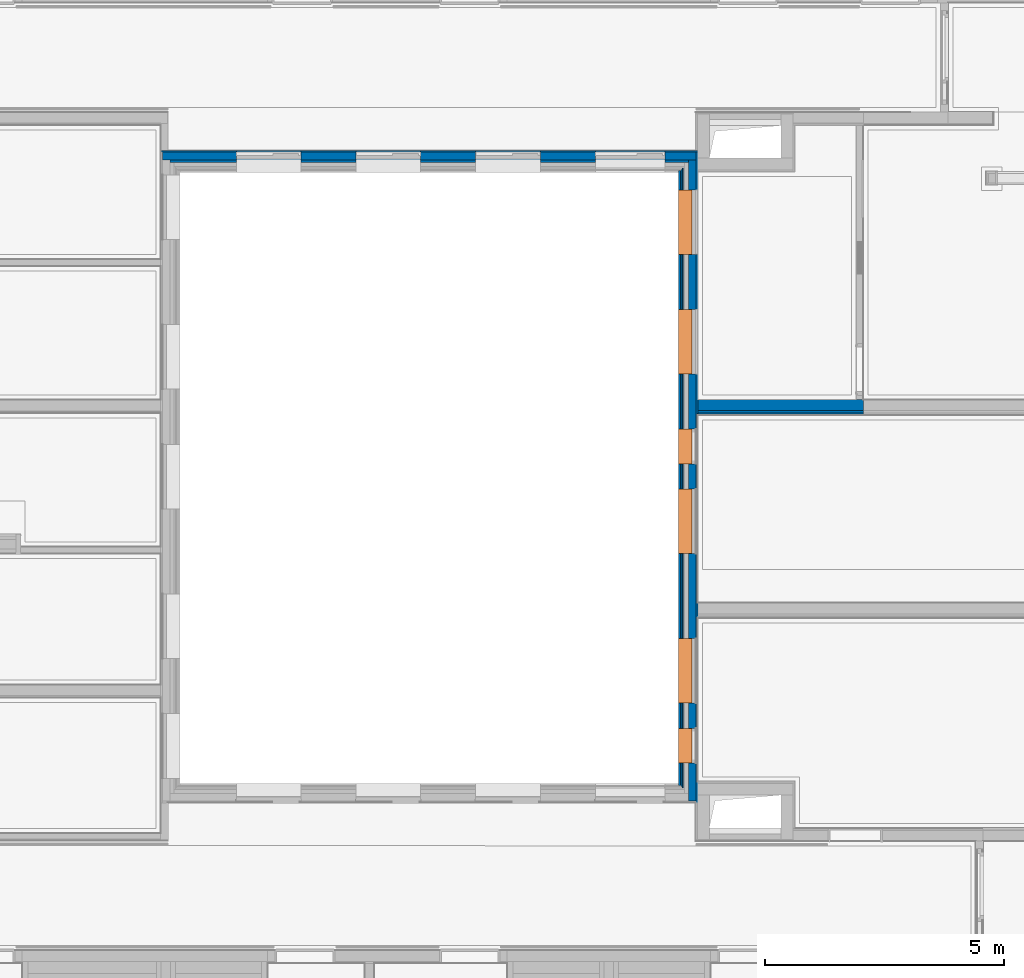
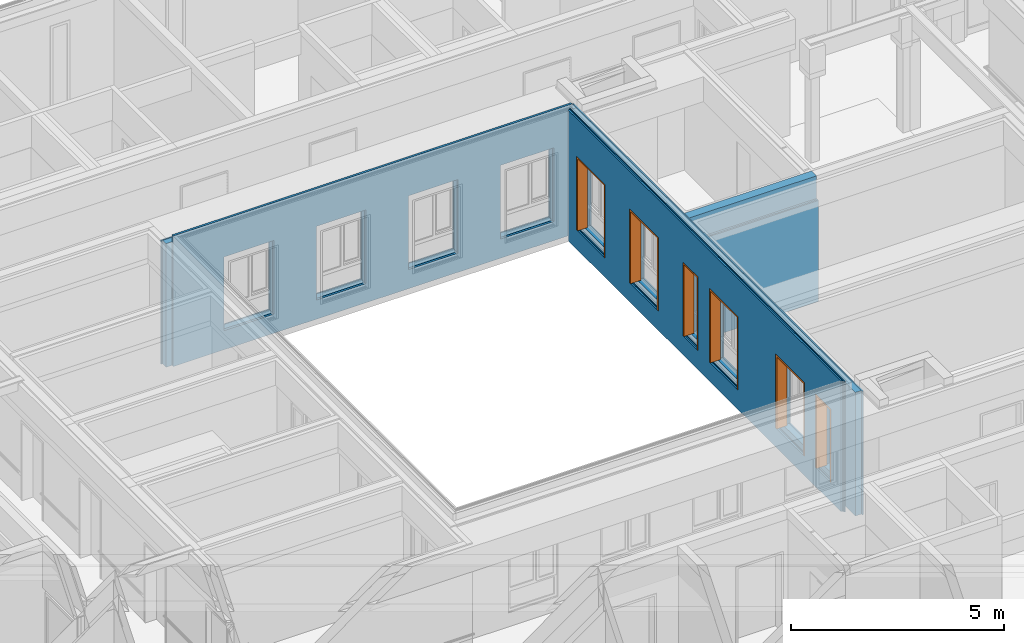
# One storey, part 17 of 222: 11 walls, 6 proxies, 42 openings.
"""IFC4 building model written with IfcOpenShell, lengths in metres."""

from ifc_helpers import new_model, entity, si_unit, converted_unit, derived_unit, frame, frame_2d, origin, origin_with_axes, place, context, subcontext, project, spatial, polyline, rectangle, outline, extrude, faceted_brep, material, element, fill, save


model = new_model("IFC4")

# Units and contexts
model_context = context("Model", 3, precision=1e-05, world=origin())
body_context = subcontext(model_context, "Body", "Model", "MODEL_VIEW")
ifc_project = project(units=[si_unit("LENGTHUNIT", "METRE"), si_unit("AREAUNIT", "SQUARE_METRE"), si_unit("VOLUMEUNIT", "CUBIC_METRE"), si_unit("MASSUNIT", "GRAM", prefix="KILO"), converted_unit("PLANEANGLEUNIT", "DEGREE", entity("IfcPlaneAngleMeasure", 0.0174532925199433), si_unit("PLANEANGLEUNIT", "RADIAN"), dimensions=[0, 0, 0, 0, 0, 0, 0]), derived_unit("THERMALTRANSMITTANCEUNIT", [(si_unit("POWERUNIT", "WATT"), 1), (si_unit("THERMODYNAMICTEMPERATUREUNIT", "KELVIN"), -1), (si_unit("LENGTHUNIT", "METRE"), -2)]), derived_unit("VOLUMETRICFLOWRATEUNIT", [(si_unit("LENGTHUNIT", "METRE"), 3), (converted_unit("TIMEUNIT", "hour", entity("IfcTimeMeasure", 3600.0), si_unit("TIMEUNIT", "SECOND"), dimensions=[0, 0, 1, 0, 0, 0, 0]), -1), (si_unit("LENGTHUNIT", "METRE"), -1)])], contexts=[model_context])

# Site, building, storey
site_placement = place(None, origin())
site = spatial("IfcSite", under=ifc_project, at=site_placement, Name="Psychiatrie Neubau Wunstorf", CompositionType="ELEMENT")
building_placement = place(site_placement, origin())
building = spatial("IfcBuilding", under=site, at=building_placement, Name="Neubau H2 Stationsgebäude", CompositionType="ELEMENT")
storey_placement = place(building_placement, frame((0.0, 0.0, 3.6)))
storey = spatial("IfcBuildingStorey", under=building, at=storey_placement, Name="H2 Ebene +1", CompositionType="ELEMENT", Elevation=3.6)

# Wall, openings
ifc_material_1 = material(Name="WA-LB")
wall_1_placement = place(storey_placement, frame((26.861, 7.414, 0.0), z_axis=(0.0, 0.0, 1.0), x_axis=(5.35483038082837e-16, 1.0, 0.0)))
wall_1 = element("IfcWall", 1, at=wall_1_placement, inside=storey, material=ifc_material_1, context=body_context, shape_type="SweptSolid", body=[
    extrude(rectangle(XDim=13.5876528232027, YDim=0.036, at=frame_2d((6.79382641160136, 0.018), x_axis=(1.0, 0.0))), origin_with_axes(), (0.0, 0.0, 1.0), 3.55),
])
opening_1_placement = place(wall_1_placement, frame((12.801, 0.0359999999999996, 0.55), z_axis=(0.0, -1.0, 0.0), x_axis=(0.0, 0.0, 1.0)))
element("IfcOpeningElement", 2, at=opening_1_placement, cuts=wall_1, Name="Fensteröffnung", ObjectType="Opening", context=body_context, shape_type="SweptSolid", body=[
    extrude(outline(polyline([(2.115, 1.35), (2.115, 0.0), (0.0, 0.0), (0.0, 1.35), (2.115, 1.35)])), origin_with_axes(), (0.0, 0.0, 1.0), 0.036),
])
opening_2_placement = place(wall_1_placement, frame((10.3014401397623, 0.0359999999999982, 0.55), z_axis=(0.0, -1.0, 0.0), x_axis=(0.0, 0.0, 1.0)))
element("IfcOpeningElement", 3, at=opening_2_placement, cuts=wall_1, Name="Fensteröffnung", ObjectType="Opening", context=body_context, shape_type="SweptSolid", body=[
    extrude(outline(polyline([(2.115, 1.35), (2.115, 0.0), (0.0, 0.0), (0.0, 1.35), (2.115, 1.35)])), origin_with_axes(), (0.0, 0.0, 1.0), 0.036),
])
opening_3_placement = place(wall_1_placement, frame((7.80105754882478, 0.0360000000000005, 0.55), z_axis=(0.0, -1.0, 0.0), x_axis=(0.0, 0.0, 1.0)))
element("IfcOpeningElement", 4, at=opening_3_placement, cuts=wall_1, Name="Fensteröffnung", ObjectType="Opening", context=body_context, shape_type="SweptSolid", body=[
    extrude(outline(polyline([(2.115, 0.725), (2.115, 0.0), (0.0, 0.0), (0.0, 0.725), (2.115, 0.725)])), origin_with_axes(), (0.0, 0.0, 1.0), 0.036),
])
opening_4_placement = place(wall_1_placement, frame((3.42844477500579, 0.0360000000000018, 0.55), z_axis=(0.0, -1.0, 0.0), x_axis=(0.0, 0.0, 1.0)))
element("IfcOpeningElement", 5, at=opening_4_placement, cuts=wall_1, Name="Fensteröffnung", ObjectType="Opening", context=body_context, shape_type="SweptSolid", body=[
    extrude(outline(polyline([(2.115, 1.35), (2.115, 0.0), (0.0, 0.0), (0.0, 1.35), (2.115, 1.35)])), origin_with_axes(), (0.0, 0.0, 1.0), 0.036),
])
opening_5_placement = place(wall_1_placement, frame((1.55344478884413, 0.0359999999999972, 0.55), z_axis=(0.0, -1.0, 0.0), x_axis=(0.0, 0.0, 1.0)))
element("IfcOpeningElement", 6, at=opening_5_placement, cuts=wall_1, Name="Fensteröffnung", ObjectType="Opening", context=body_context, shape_type="SweptSolid", body=[
    extrude(outline(polyline([(2.115, 0.725), (2.115, 0.0), (0.0, 0.0), (0.0, 0.725), (2.115, 0.725)])), origin_with_axes(), (0.0, 0.0, 1.0), 0.036),
])
opening_6_placement = place(wall_1_placement, frame((6.55180066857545, 0.0360000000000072, 0.55), z_axis=(0.0, -1.0, 0.0), x_axis=(0.0, 0.0, 1.0)))
element("IfcOpeningElement", 7, at=opening_6_placement, cuts=wall_1, Name="Fensteröffnung", ObjectType="Opening", context=body_context, shape_type="SweptSolid", body=[
    extrude(outline(polyline([(2.115, 1.35), (2.115, 0.0), (0.0, 0.0), (0.0, 1.35), (2.115, 1.35)])), origin_with_axes(), (0.0, 0.0, 1.0), 0.036),
])

ifc_material_2 = material(Name="WA-DL")
wall_2_placement = place(storey_placement, frame((26.825, 7.45, 0.0), z_axis=(0.0, 0.0, 1.0), x_axis=(5.43320358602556e-16, 1.0, 0.0)))
wall_2 = element("IfcWall", 8, at=wall_2_placement, inside=storey, material=ifc_material_2, context=body_context, shape_type="SweptSolid", body=[
    extrude(rectangle(XDim=13.3916528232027, YDim=0.16, at=frame_2d((6.69582641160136, 0.08), x_axis=(1.0, 0.0))), origin_with_axes(), (0.0, 0.0, 1.0), 3.55),
])
opening_7_placement = place(wall_2_placement, frame((12.765, 0.16, 0.55), z_axis=(0.0, -1.0, 0.0), x_axis=(0.0, 0.0, 1.0)))
element("IfcOpeningElement", 9, at=opening_7_placement, cuts=wall_2, Name="Fensteröffnung", ObjectType="Opening", context=body_context, shape_type="SweptSolid", body=[
    extrude(outline(polyline([(2.115, 1.35), (2.115, 0.0), (0.0, 0.0), (0.0, 1.35), (2.115, 1.35)])), origin_with_axes(), (0.0, 0.0, 1.0), 0.16),
])
opening_8_placement = place(wall_2_placement, frame((10.2654401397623, 0.159999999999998, 0.55), z_axis=(0.0, -1.0, 0.0), x_axis=(0.0, 0.0, 1.0)))
element("IfcOpeningElement", 10, at=opening_8_placement, cuts=wall_2, Name="Fensteröffnung", ObjectType="Opening", context=body_context, shape_type="SweptSolid", body=[
    extrude(outline(polyline([(2.115, 1.35), (2.115, 0.0), (0.0, 0.0), (0.0, 1.35), (2.115, 1.35)])), origin_with_axes(), (0.0, 0.0, 1.0), 0.16),
])
opening_9_placement = place(wall_2_placement, frame((7.76505754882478, 0.160000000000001, 0.55), z_axis=(0.0, -1.0, 0.0), x_axis=(0.0, 0.0, 1.0)))
element("IfcOpeningElement", 11, at=opening_9_placement, cuts=wall_2, Name="Fensteröffnung", ObjectType="Opening", context=body_context, shape_type="SweptSolid", body=[
    extrude(outline(polyline([(2.115, 0.725), (2.115, 0.0), (0.0, 0.0), (0.0, 0.725), (2.115, 0.725)])), origin_with_axes(), (0.0, 0.0, 1.0), 0.16),
])
opening_10_placement = place(wall_2_placement, frame((3.39244477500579, 0.160000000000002, 0.55), z_axis=(0.0, -1.0, 0.0), x_axis=(0.0, 0.0, 1.0)))
element("IfcOpeningElement", 12, at=opening_10_placement, cuts=wall_2, Name="Fensteröffnung", ObjectType="Opening", context=body_context, shape_type="SweptSolid", body=[
    extrude(outline(polyline([(2.115, 1.35), (2.115, 0.0), (0.0, 0.0), (0.0, 1.35), (2.115, 1.35)])), origin_with_axes(), (0.0, 0.0, 1.0), 0.16),
])
opening_11_placement = place(wall_2_placement, frame((1.51744478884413, 0.159999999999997, 0.55), z_axis=(0.0, -1.0, 0.0), x_axis=(0.0, 0.0, 1.0)))
element("IfcOpeningElement", 13, at=opening_11_placement, cuts=wall_2, Name="Fensteröffnung", ObjectType="Opening", context=body_context, shape_type="SweptSolid", body=[
    extrude(outline(polyline([(2.115, 0.725), (2.115, 0.0), (0.0, 0.0), (0.0, 0.725), (2.115, 0.725)])), origin_with_axes(), (0.0, 0.0, 1.0), 0.16),
])
opening_12_placement = place(wall_2_placement, frame((6.51580066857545, 0.160000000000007, 0.55), z_axis=(0.0, -1.0, 0.0), x_axis=(0.0, 0.0, 1.0)))
element("IfcOpeningElement", 14, at=opening_12_placement, cuts=wall_2, Name="Fensteröffnung", ObjectType="Opening", context=body_context, shape_type="SweptSolid", body=[
    extrude(outline(polyline([(2.115, 1.35), (2.115, 0.0), (0.0, 0.0), (0.0, 1.35), (2.115, 1.35)])), origin_with_axes(), (0.0, 0.0, 1.0), 0.16),
])

ifc_material_3 = material(Name="WA-KL")
wall_3_placement = place(storey_placement, frame((26.549, 7.726, 0.0), z_axis=(0.0, 0.0, 1.0), x_axis=(5.62299291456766e-16, 1.0, 0.0)))
wall_3 = element("IfcWall", 15, at=wall_3_placement, inside=storey, material=ifc_material_3, context=body_context, shape_type="SweptSolid", body=[
    extrude(rectangle(XDim=12.9396528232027, YDim=0.024, at=frame_2d((6.46982641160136, 0.012), x_axis=(1.0, 0.0))), origin_with_axes(), (0.0, 0.0, 1.0), 3.75),
])
opening_13_placement = place(wall_3_placement, frame((12.489, 0.0239999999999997, 0.55), z_axis=(0.0, -1.0, 0.0), x_axis=(0.0, 0.0, 1.0)))
element("IfcOpeningElement", 16, at=opening_13_placement, cuts=wall_3, Name="Fensteröffnung", ObjectType="Opening", context=body_context, shape_type="SweptSolid", body=[
    extrude(outline(polyline([(2.115, 1.35), (2.115, 0.0), (0.0, 0.0), (0.0, 1.35), (2.115, 1.35)])), origin_with_axes(), (0.0, 0.0, 1.0), 0.024),
])
opening_14_placement = place(wall_3_placement, frame((9.98944013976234, 0.0239999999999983, 0.55), z_axis=(0.0, -1.0, 0.0), x_axis=(0.0, 0.0, 1.0)))
element("IfcOpeningElement", 17, at=opening_14_placement, cuts=wall_3, Name="Fensteröffnung", ObjectType="Opening", context=body_context, shape_type="SweptSolid", body=[
    extrude(outline(polyline([(2.115, 1.35), (2.115, 0.0), (0.0, 0.0), (0.0, 1.35), (2.115, 1.35)])), origin_with_axes(), (0.0, 0.0, 1.0), 0.024),
])
opening_15_placement = place(wall_3_placement, frame((7.48905754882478, 0.0240000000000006, 0.55), z_axis=(0.0, -1.0, 0.0), x_axis=(0.0, 0.0, 1.0)))
element("IfcOpeningElement", 18, at=opening_15_placement, cuts=wall_3, Name="Fensteröffnung", ObjectType="Opening", context=body_context, shape_type="SweptSolid", body=[
    extrude(outline(polyline([(2.115, 0.725), (2.115, 0.0), (0.0, 0.0), (0.0, 0.725), (2.115, 0.725)])), origin_with_axes(), (0.0, 0.0, 1.0), 0.024),
])
opening_16_placement = place(wall_3_placement, frame((3.11644477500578, 0.0240000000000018, 0.55), z_axis=(0.0, -1.0, 0.0), x_axis=(0.0, 0.0, 1.0)))
element("IfcOpeningElement", 19, at=opening_16_placement, cuts=wall_3, Name="Fensteröffnung", ObjectType="Opening", context=body_context, shape_type="SweptSolid", body=[
    extrude(outline(polyline([(2.115, 1.35), (2.115, 0.0), (0.0, 0.0), (0.0, 1.35), (2.115, 1.35)])), origin_with_axes(), (0.0, 0.0, 1.0), 0.024),
])
opening_17_placement = place(wall_3_placement, frame((1.24144478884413, 0.0239999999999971, 0.55), z_axis=(0.0, -1.0, 0.0), x_axis=(0.0, 0.0, 1.0)))
element("IfcOpeningElement", 20, at=opening_17_placement, cuts=wall_3, Name="Fensteröffnung", ObjectType="Opening", context=body_context, shape_type="SweptSolid", body=[
    extrude(outline(polyline([(2.115, 0.725), (2.115, 0.0), (0.0, 0.0), (0.0, 0.725), (2.115, 0.725)])), origin_with_axes(), (0.0, 0.0, 1.0), 0.024),
])
opening_18_placement = place(wall_3_placement, frame((6.23980066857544, 0.0240000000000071, 0.55), z_axis=(0.0, -1.0, 0.0), x_axis=(0.0, 0.0, 1.0)))
element("IfcOpeningElement", 21, at=opening_18_placement, cuts=wall_3, Name="Fensteröffnung", ObjectType="Opening", context=body_context, shape_type="SweptSolid", body=[
    extrude(outline(polyline([(2.115, 1.35), (2.115, 0.0), (0.0, 0.0), (0.0, 1.35), (2.115, 1.35)])), origin_with_axes(), (0.0, 0.0, 1.0), 0.024),
])

ifc_material_4 = material(Name="WA-TL")
wall_4_placement = place(storey_placement, frame((26.525, 7.75, 0.0), z_axis=(0.0, 0.0, 1.0), x_axis=(5.64392922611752e-16, 1.0, 0.0)))
wall_4 = element("IfcWall", 22, at=wall_4_placement, inside=storey, material=ifc_material_4, context=body_context, shape_type="SweptSolid", body=[
    extrude(rectangle(XDim=12.8916528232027, YDim=0.024, at=frame_2d((6.44582641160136, 0.012), x_axis=(1.0, 0.0))), origin_with_axes(), (0.0, 0.0, 1.0), 3.75),
])
opening_19_placement = place(wall_4_placement, frame((12.465, 0.0239999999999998, 0.55), z_axis=(0.0, -1.0, 0.0), x_axis=(0.0, 0.0, 1.0)))
element("IfcOpeningElement", 23, at=opening_19_placement, cuts=wall_4, Name="Fensteröffnung", ObjectType="Opening", context=body_context, shape_type="SweptSolid", body=[
    extrude(outline(polyline([(2.115, 1.35), (2.115, 0.0), (0.0, 0.0), (0.0, 1.35), (2.115, 1.35)])), origin_with_axes(), (0.0, 0.0, 1.0), 0.024),
])
opening_20_placement = place(wall_4_placement, frame((9.96544013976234, 0.0239999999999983, 0.55), z_axis=(0.0, -1.0, 0.0), x_axis=(0.0, 0.0, 1.0)))
element("IfcOpeningElement", 24, at=opening_20_placement, cuts=wall_4, Name="Fensteröffnung", ObjectType="Opening", context=body_context, shape_type="SweptSolid", body=[
    extrude(outline(polyline([(2.115, 1.35), (2.115, 0.0), (0.0, 0.0), (0.0, 1.35), (2.115, 1.35)])), origin_with_axes(), (0.0, 0.0, 1.0), 0.024),
])
opening_21_placement = place(wall_4_placement, frame((7.46505754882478, 0.0240000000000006, 0.55), z_axis=(0.0, -1.0, 0.0), x_axis=(0.0, 0.0, 1.0)))
element("IfcOpeningElement", 25, at=opening_21_placement, cuts=wall_4, Name="Fensteröffnung", ObjectType="Opening", context=body_context, shape_type="SweptSolid", body=[
    extrude(outline(polyline([(2.115, 0.725), (2.115, 0.0), (0.0, 0.0), (0.0, 0.725), (2.115, 0.725)])), origin_with_axes(), (0.0, 0.0, 1.0), 0.024),
])
opening_22_placement = place(wall_4_placement, frame((3.09244477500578, 0.0240000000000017, 0.55), z_axis=(0.0, -1.0, 0.0), x_axis=(0.0, 0.0, 1.0)))
element("IfcOpeningElement", 26, at=opening_22_placement, cuts=wall_4, Name="Fensteröffnung", ObjectType="Opening", context=body_context, shape_type="SweptSolid", body=[
    extrude(outline(polyline([(2.115, 1.35), (2.115, 0.0), (0.0, 0.0), (0.0, 1.35), (2.115, 1.35)])), origin_with_axes(), (0.0, 0.0, 1.0), 0.024),
])
opening_23_placement = place(wall_4_placement, frame((1.21744478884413, 0.023999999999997, 0.55), z_axis=(0.0, -1.0, 0.0), x_axis=(0.0, 0.0, 1.0)))
element("IfcOpeningElement", 27, at=opening_23_placement, cuts=wall_4, Name="Fensteröffnung", ObjectType="Opening", context=body_context, shape_type="SweptSolid", body=[
    extrude(outline(polyline([(2.115, 0.725), (2.115, 0.0), (0.0, 0.0), (0.0, 0.725), (2.115, 0.725)])), origin_with_axes(), (0.0, 0.0, 1.0), 0.024),
])
opening_24_placement = place(wall_4_placement, frame((6.21580066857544, 0.0240000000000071, 0.55), z_axis=(0.0, -1.0, 0.0), x_axis=(0.0, 0.0, 1.0)))
element("IfcOpeningElement", 28, at=opening_24_placement, cuts=wall_4, Name="Fensteröffnung", ObjectType="Opening", context=body_context, shape_type="SweptSolid", body=[
    extrude(outline(polyline([(2.115, 1.35), (2.115, 0.0), (0.0, 0.0), (0.0, 1.35), (2.115, 1.35)])), origin_with_axes(), (0.0, 0.0, 1.0), 0.024),
])

# Wall, openings, proxies
ifc_material_5 = material(Name="WA-HS")
wall_5_placement = place(storey_placement, frame((26.501, 7.774, 0.0), z_axis=(0.0, 0.0, 1.0), x_axis=(5.66502202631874e-16, 1.0, 0.0)))
wall_5 = element("IfcWall", 29, at=wall_5_placement, inside=storey, material=ifc_material_5, context=body_context, shape_type="SweptSolid", body=[
    extrude(rectangle(XDim=12.8436528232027, YDim=0.042, at=frame_2d((6.42182641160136, 0.021), x_axis=(1.0, 0.0))), origin_with_axes(), (0.0, 0.0, 1.0), 3.75),
])
opening_25_placement = place(wall_5_placement, frame((12.441, 0.0419999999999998, 0.55), z_axis=(0.0, -1.0, 0.0), x_axis=(0.0, 0.0, 1.0)))
opening_25 = element("IfcOpeningElement", 30, at=opening_25_placement, cuts=wall_5, Name="Fensteröffnung", ObjectType="Opening", context=body_context, shape_type="SweptSolid", body=[
    extrude(outline(polyline([(2.115, 1.35), (2.115, 0.0), (0.0, 0.0), (0.0, 1.35), (2.115, 1.35)])), origin_with_axes(), (0.0, 0.0, 1.0), 0.042),
])
opening_26_placement = place(wall_5_placement, frame((9.94144013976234, 0.0419999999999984, 0.55), z_axis=(0.0, -1.0, 0.0), x_axis=(0.0, 0.0, 1.0)))
opening_26 = element("IfcOpeningElement", 31, at=opening_26_placement, cuts=wall_5, Name="Fensteröffnung", ObjectType="Opening", context=body_context, shape_type="SweptSolid", body=[
    extrude(outline(polyline([(2.115, 1.35), (2.115, 0.0), (0.0, 0.0), (0.0, 1.35), (2.115, 1.35)])), origin_with_axes(), (0.0, 0.0, 1.0), 0.042),
])
opening_27_placement = place(wall_5_placement, frame((7.44105754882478, 0.0420000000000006, 0.55), z_axis=(0.0, -1.0, 0.0), x_axis=(0.0, 0.0, 1.0)))
opening_27 = element("IfcOpeningElement", 32, at=opening_27_placement, cuts=wall_5, Name="Fensteröffnung", ObjectType="Opening", context=body_context, shape_type="SweptSolid", body=[
    extrude(outline(polyline([(2.115, 0.725), (2.115, 0.0), (0.0, 0.0), (0.0, 0.725), (2.115, 0.725)])), origin_with_axes(), (0.0, 0.0, 1.0), 0.042),
])
opening_28_placement = place(wall_5_placement, frame((3.06844477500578, 0.0420000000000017, 0.55), z_axis=(0.0, -1.0, 0.0), x_axis=(0.0, 0.0, 1.0)))
opening_28 = element("IfcOpeningElement", 33, at=opening_28_placement, cuts=wall_5, Name="Fensteröffnung", ObjectType="Opening", context=body_context, shape_type="SweptSolid", body=[
    extrude(outline(polyline([(2.115, 1.35), (2.115, 0.0), (0.0, 0.0), (0.0, 1.35), (2.115, 1.35)])), origin_with_axes(), (0.0, 0.0, 1.0), 0.042),
])
opening_29_placement = place(wall_5_placement, frame((1.19344478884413, 0.041999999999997, 0.55), z_axis=(0.0, -1.0, 0.0), x_axis=(0.0, 0.0, 1.0)))
opening_29 = element("IfcOpeningElement", 34, at=opening_29_placement, cuts=wall_5, Name="Fensteröffnung", ObjectType="Opening", context=body_context, shape_type="SweptSolid", body=[
    extrude(outline(polyline([(2.115, 0.725), (2.115, 0.0), (0.0, 0.0), (0.0, 0.725), (2.115, 0.725)])), origin_with_axes(), (0.0, 0.0, 1.0), 0.042),
])
opening_30_placement = place(wall_5_placement, frame((6.19180066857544, 0.0420000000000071, 0.55), z_axis=(0.0, -1.0, 0.0), x_axis=(0.0, 0.0, 1.0)))
opening_30 = element("IfcOpeningElement", 35, at=opening_30_placement, cuts=wall_5, Name="Fensteröffnung", ObjectType="Opening", context=body_context, shape_type="SweptSolid", body=[
    extrude(outline(polyline([(2.115, 1.35), (2.115, 0.0), (0.0, 0.0), (0.0, 1.35), (2.115, 1.35)])), origin_with_axes(), (0.0, 0.0, 1.0), 0.042),
])
ifc_material_6 = material(Name="WA-HS")
proxy_1_placement = place(opening_25_placement, frame((0.0, 1.35, 0.0)))
proxy_1 = element("IfcBuildingElementProxy", 36, at=proxy_1_placement, inside=storey, material=ifc_material_6, context=body_context, shape_type="Brep", body=[
    faceted_brep([(0.0, 0.0, 0.275), (0.0, 0.0, 0.0), (2.115, 0.0, 0.0), (2.115, 0.0, 0.275), (2.115, -1.35, 0.0), (2.115, -1.35, 0.274999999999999), (0.0, -0.05, 0.0), (0.0, -0.0500000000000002, 0.275), (0.0, -1.35, 0.274999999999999), (0.0, -1.3, 0.274999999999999), (2.065, -1.3, 0.274999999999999), (2.065, -0.0500000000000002, 0.275), (2.065, -0.05, 0.0), (2.065, -1.3, 0.0), (0.0, -1.3, 0.0), (0.0, -1.35, 0.0)], [[[0, 1, 2, 3]], [[2, 4, 5, 3]], [[6, 1, 0, 7]], [[7, 0, 3, 5, 8, 9, 10, 11]], [[1, 6, 12, 13, 14, 15, 4, 2]], [[6, 7, 11, 12]], [[15, 8, 5, 4]], [[15, 14, 9, 8]], [[9, 14, 13, 10]], [[10, 13, 12, 11]]], orient=[[False], [False], [False], [False], [False], [False], [False], [False], [False], [False]]),
])
fill(opening_25, proxy_1)
ifc_material_7 = material(Name="WA-HS")
proxy_2_placement = place(opening_26_placement, frame((0.0, 1.35, 0.0)))
proxy_2 = element("IfcBuildingElementProxy", 37, at=proxy_2_placement, inside=storey, material=ifc_material_7, context=body_context, shape_type="Brep", body=[
    faceted_brep([(0.0, 0.0, 0.275), (0.0, 0.0, 0.0), (2.115, 0.0, 0.0), (2.115, 0.0, 0.275), (2.115, -1.35, 0.0), (2.115, -1.35, 0.274999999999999), (0.0, -0.05, 0.0), (0.0, -0.0500000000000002, 0.275), (0.0, -1.35, 0.274999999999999), (0.0, -1.3, 0.274999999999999), (2.065, -1.3, 0.274999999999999), (2.065, -0.0500000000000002, 0.275), (2.065, -0.05, 0.0), (2.065, -1.3, 0.0), (0.0, -1.3, 0.0), (0.0, -1.35, 0.0)], [[[0, 1, 2, 3]], [[2, 4, 5, 3]], [[6, 1, 0, 7]], [[7, 0, 3, 5, 8, 9, 10, 11]], [[1, 6, 12, 13, 14, 15, 4, 2]], [[6, 7, 11, 12]], [[15, 8, 5, 4]], [[15, 14, 9, 8]], [[9, 14, 13, 10]], [[10, 13, 12, 11]]], orient=[[False], [False], [False], [False], [False], [False], [False], [False], [False], [False]]),
])
fill(opening_26, proxy_2)
ifc_material_8 = material(Name="WA-HS")
proxy_3_placement = place(opening_27_placement, frame((0.0, 0.725, 0.0)))
proxy_3 = element("IfcBuildingElementProxy", 38, at=proxy_3_placement, inside=storey, material=ifc_material_8, context=body_context, shape_type="Brep", body=[
    faceted_brep([(0.0, -0.725, 0.0), (0.0, -0.725, 0.275), (2.115, -0.725, 0.275), (2.115, -0.725, 0.0), (0.0, -0.675, 0.275), (0.0, -0.675, 0.0), (2.065, -0.675, 0.0), (2.065, -0.675, 0.275), (2.115, 0.0, 0.275), (2.115, 0.0, 0.0), (0.0, 0.0, 0.0), (0.0, -0.05, 0.0), (2.065, -0.05, 0.0), (2.065, -0.0500000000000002, 0.275), (0.0, -0.0500000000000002, 0.275), (0.0, 0.0, 0.275)], [[[0, 1, 2, 3]], [[4, 5, 6, 7]], [[0, 5, 4, 1]], [[3, 2, 8, 9]], [[6, 5, 0, 3, 9, 10, 11, 12]], [[13, 14, 15, 8, 2, 1, 4, 7]], [[7, 6, 12, 13]], [[11, 14, 13, 12]], [[15, 10, 9, 8]], [[11, 10, 15, 14]]], orient=[[False], [False], [False], [False], [False], [False], [False], [False], [False], [False]]),
])
fill(opening_27, proxy_3)
ifc_material_9 = material(Name="WA-HS")
proxy_4_placement = place(opening_28_placement, frame((0.0, 1.35, 0.0)))
proxy_4 = element("IfcBuildingElementProxy", 39, at=proxy_4_placement, inside=storey, material=ifc_material_9, context=body_context, shape_type="Brep", body=[
    faceted_brep([(0.0, -1.35, 0.0), (0.0, -1.35, 0.274999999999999), (2.115, -1.35, 0.274999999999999), (2.115, -1.35, 0.0), (0.0, -1.3, 0.274999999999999), (0.0, -1.3, 0.0), (2.065, -1.3, 0.0), (2.065, -1.3, 0.274999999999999), (2.115, 0.0, 0.275), (2.115, 0.0, 0.0), (0.0, 0.0, 0.0), (0.0, -0.05, 0.0), (2.065, -0.05, 0.0), (2.065, -0.0500000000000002, 0.275), (0.0, -0.0500000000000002, 0.275), (0.0, 0.0, 0.275)], [[[0, 1, 2, 3]], [[4, 5, 6, 7]], [[0, 5, 4, 1]], [[3, 2, 8, 9]], [[6, 5, 0, 3, 9, 10, 11, 12]], [[13, 14, 15, 8, 2, 1, 4, 7]], [[7, 6, 12, 13]], [[11, 14, 13, 12]], [[15, 10, 9, 8]], [[11, 10, 15, 14]]], orient=[[False], [False], [False], [False], [False], [False], [False], [False], [False], [False]]),
])
fill(opening_28, proxy_4)
ifc_material_10 = material(Name="WA-HS")
proxy_5_placement = place(opening_29_placement, frame((0.0, 0.725, 0.0)))
proxy_5 = element("IfcBuildingElementProxy", 40, at=proxy_5_placement, inside=storey, material=ifc_material_10, context=body_context, shape_type="Brep", body=[
    faceted_brep([(0.0, 0.0, 0.275), (0.0, 0.0, 0.0), (2.115, 0.0, 0.0), (2.115, 0.0, 0.275), (2.115, -0.725, 0.0), (2.115, -0.725, 0.275), (0.0, -0.05, 0.0), (0.0, -0.0500000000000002, 0.275), (0.0, -0.725, 0.275), (0.0, -0.675, 0.275), (2.065, -0.675, 0.275), (2.065, -0.0500000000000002, 0.275), (2.065, -0.05, 0.0), (2.065, -0.675, 0.0), (0.0, -0.675, 0.0), (0.0, -0.725, 0.0)], [[[0, 1, 2, 3]], [[2, 4, 5, 3]], [[6, 1, 0, 7]], [[7, 0, 3, 5, 8, 9, 10, 11]], [[1, 6, 12, 13, 14, 15, 4, 2]], [[6, 7, 11, 12]], [[15, 8, 5, 4]], [[15, 14, 9, 8]], [[9, 14, 13, 10]], [[10, 13, 12, 11]]], orient=[[False], [False], [False], [False], [False], [False], [False], [False], [False], [False]]),
])
fill(opening_29, proxy_5)
ifc_material_11 = material(Name="WA-HS")
proxy_6_placement = place(opening_30_placement, frame((0.0, 1.35, 0.0)))
proxy_6 = element("IfcBuildingElementProxy", 41, at=proxy_6_placement, inside=storey, material=ifc_material_11, context=body_context, shape_type="Brep", body=[
    faceted_brep([(0.0, -1.35, 0.0), (0.0, -1.35, 0.274999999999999), (2.115, -1.35, 0.274999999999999), (2.115, -1.35, 0.0), (0.0, -1.3, 0.274999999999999), (0.0, -1.3, 0.0), (2.065, -1.3, 0.0), (2.065, -1.3, 0.274999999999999), (2.115, 0.0, 0.275), (2.115, 0.0, 0.0), (0.0, 0.0, 0.0), (0.0, -0.05, 0.0), (2.065, -0.05, 0.0), (2.065, -0.0500000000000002, 0.275), (0.0, -0.0500000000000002, 0.275), (0.0, 0.0, 0.275)], [[[0, 1, 2, 3]], [[4, 5, 6, 7]], [[0, 5, 4, 1]], [[3, 2, 8, 9]], [[6, 5, 0, 3, 9, 10, 11, 12]], [[13, 14, 15, 8, 2, 1, 4, 7]], [[7, 6, 12, 13]], [[11, 14, 13, 12]], [[15, 10, 9, 8]], [[11, 10, 15, 14]]], orient=[[False], [False], [False], [False], [False], [False], [False], [False], [False], [False]]),
])
fill(opening_30, proxy_6)

# Wall, openings
ifc_material_12 = material(Name="WA-LB")
wall_6_placement = place(storey_placement, frame((26.861, 21.036, 0.0), z_axis=(0.0, 0.0, 1.0), x_axis=(-1.0, 0.0, 0.0)))
wall_6 = element("IfcWall", 42, at=wall_6_placement, inside=storey, material=ifc_material_12, context=body_context, shape_type="SweptSolid", body=[
    extrude(rectangle(XDim=11.222, YDim=0.0343471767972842, at=frame_2d((5.611, 0.0171735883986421), x_axis=(1.0, 0.0))), origin_with_axes(), (0.0, 0.0, 1.0), 3.55),
])
opening_31_placement = place(wall_6_placement, frame((9.64074878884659, 0.0343471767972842, 0.55), z_axis=(0.0, -1.0, 0.0), x_axis=(0.0, 0.0, 1.0)))
element("IfcOpeningElement", 43, at=opening_31_placement, cuts=wall_6, Name="Fensteröffnung", ObjectType="Opening", context=body_context, shape_type="SweptSolid", body=[
    extrude(outline(polyline([(2.115, 1.35), (2.115, 0.0), (0.0, 0.0), (0.0, 1.35), (2.115, 1.35)])), origin_with_axes(), (0.0, 0.0, 1.0), 0.0343471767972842),
])
opening_32_placement = place(wall_6_placement, frame((7.1407487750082, 0.0343471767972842, 0.55), z_axis=(0.0, -1.0, 0.0), x_axis=(0.0, 0.0, 1.0)))
element("IfcOpeningElement", 44, at=opening_32_placement, cuts=wall_6, Name="Fensteröffnung", ObjectType="Opening", context=body_context, shape_type="SweptSolid", body=[
    extrude(outline(polyline([(2.115, 1.35), (2.115, 0.0), (0.0, 0.0), (0.0, 1.35), (2.115, 1.35)])), origin_with_axes(), (0.0, 0.0, 1.0), 0.0343471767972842),
])
opening_33_placement = place(wall_6_placement, frame((4.64074878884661, 0.0343471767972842, 0.55), z_axis=(0.0, -1.0, 0.0), x_axis=(0.0, 0.0, 1.0)))
element("IfcOpeningElement", 45, at=opening_33_placement, cuts=wall_6, Name="Fensteröffnung", ObjectType="Opening", context=body_context, shape_type="SweptSolid", body=[
    extrude(outline(polyline([(2.115, 1.35), (2.115, 0.0), (0.0, 0.0), (0.0, 1.35), (2.115, 1.35)])), origin_with_axes(), (0.0, 0.0, 1.0), 0.0343471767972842),
])
opening_34_placement = place(wall_6_placement, frame((2.14083590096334, 0.0343471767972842, 0.55), z_axis=(0.0, -1.0, 0.0), x_axis=(0.0, 0.0, 1.0)))
element("IfcOpeningElement", 46, at=opening_34_placement, cuts=wall_6, Name="Fensteröffnung", ObjectType="Opening", context=body_context, shape_type="SweptSolid", body=[
    extrude(outline(polyline([(2.115, 1.45), (2.115, 0.0), (0.0, 0.0), (0.0, 1.45), (2.115, 1.45)])), origin_with_axes(), (0.0, 0.0, 1.0), 0.0343471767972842),
])

ifc_material_13 = material(Name="WA-DL")
wall_7_placement = place(storey_placement, frame((26.825, 21.0016528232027, 0.0), z_axis=(0.0, 0.0, 1.0), x_axis=(-1.0, 0.0, 0.0)))
wall_7 = element("IfcWall", 47, at=wall_7_placement, inside=storey, material=ifc_material_13, context=body_context, shape_type="SweptSolid", body=[
    extrude(rectangle(XDim=11.15, YDim=0.16, at=frame_2d((5.575, 0.08), x_axis=(1.0, 0.0))), origin_with_axes(), (0.0, 0.0, 1.0), 3.55),
])
opening_35_placement = place(wall_7_placement, frame((2.10483590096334, 0.16, 0.55), z_axis=(0.0, -1.0, 0.0), x_axis=(0.0, 0.0, 1.0)))
element("IfcOpeningElement", 48, at=opening_35_placement, cuts=wall_7, Name="Fensteröffnung", ObjectType="Opening", context=body_context, shape_type="SweptSolid", body=[
    extrude(outline(polyline([(2.115, 1.45), (2.115, 0.0), (0.0, 0.0), (0.0, 1.45), (2.115, 1.45)])), origin_with_axes(), (0.0, 0.0, 1.0), 0.16),
])
opening_36_placement = place(wall_7_placement, frame((4.60474878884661, 0.16, 0.55), z_axis=(0.0, -1.0, 0.0), x_axis=(0.0, 0.0, 1.0)))
element("IfcOpeningElement", 49, at=opening_36_placement, cuts=wall_7, Name="Fensteröffnung", ObjectType="Opening", context=body_context, shape_type="SweptSolid", body=[
    extrude(outline(polyline([(2.115, 1.35), (2.115, 0.0), (0.0, 0.0), (0.0, 1.35), (2.115, 1.35)])), origin_with_axes(), (0.0, 0.0, 1.0), 0.16),
])
opening_37_placement = place(wall_7_placement, frame((7.1047487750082, 0.16, 0.55), z_axis=(0.0, -1.0, 0.0), x_axis=(0.0, 0.0, 1.0)))
element("IfcOpeningElement", 50, at=opening_37_placement, cuts=wall_7, Name="Fensteröffnung", ObjectType="Opening", context=body_context, shape_type="SweptSolid", body=[
    extrude(outline(polyline([(2.115, 1.35), (2.115, 0.0), (0.0, 0.0), (0.0, 1.35), (2.115, 1.35)])), origin_with_axes(), (0.0, 0.0, 1.0), 0.16),
])
opening_38_placement = place(wall_7_placement, frame((9.60474878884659, 0.16, 0.55), z_axis=(0.0, -1.0, 0.0), x_axis=(0.0, 0.0, 1.0)))
element("IfcOpeningElement", 51, at=opening_38_placement, cuts=wall_7, Name="Fensteröffnung", ObjectType="Opening", context=body_context, shape_type="SweptSolid", body=[
    extrude(outline(polyline([(2.115, 1.35), (2.115, 0.0), (0.0, 0.0), (0.0, 1.35), (2.115, 1.35)])), origin_with_axes(), (0.0, 0.0, 1.0), 0.16),
])

ifc_material_14 = material(Name="WA-DL")
wall_8_placement = place(storey_placement, frame((26.665, 20.8416528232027, 0.0), z_axis=(0.0, 0.0, 1.0), x_axis=(-1.0, 0.0, 0.0)))
wall_8 = element("IfcWall", 52, at=wall_8_placement, inside=storey, material=ifc_material_14, context=body_context, shape_type="SweptSolid", body=[
    extrude(rectangle(XDim=10.83, YDim=0.06, at=frame_2d((5.415, 0.03), x_axis=(1.0, 0.0))), origin_with_axes(), (0.0, 0.0, 1.0), 3.75),
])
opening_39_placement = place(wall_8_placement, frame((1.94483590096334, 0.06, 0.55), z_axis=(0.0, -1.0, 0.0), x_axis=(0.0, 0.0, 1.0)))
element("IfcOpeningElement", 53, at=opening_39_placement, cuts=wall_8, Name="Fensteröffnung", ObjectType="Opening", context=body_context, shape_type="SweptSolid", body=[
    extrude(outline(polyline([(2.115, 1.45), (2.115, 0.0), (0.0, 0.0), (0.0, 1.45), (2.115, 1.45)])), origin_with_axes(), (0.0, 0.0, 1.0), 0.06),
])
opening_40_placement = place(wall_8_placement, frame((4.44474878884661, 0.06, 0.55), z_axis=(0.0, -1.0, 0.0), x_axis=(0.0, 0.0, 1.0)))
element("IfcOpeningElement", 54, at=opening_40_placement, cuts=wall_8, Name="Fensteröffnung", ObjectType="Opening", context=body_context, shape_type="SweptSolid", body=[
    extrude(outline(polyline([(2.115, 1.35), (2.115, 0.0), (0.0, 0.0), (0.0, 1.35), (2.115, 1.35)])), origin_with_axes(), (0.0, 0.0, 1.0), 0.06),
])
opening_41_placement = place(wall_8_placement, frame((6.9447487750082, 0.06, 0.55), z_axis=(0.0, -1.0, 0.0), x_axis=(0.0, 0.0, 1.0)))
element("IfcOpeningElement", 55, at=opening_41_placement, cuts=wall_8, Name="Fensteröffnung", ObjectType="Opening", context=body_context, shape_type="SweptSolid", body=[
    extrude(outline(polyline([(2.115, 1.35), (2.115, 0.0), (0.0, 0.0), (0.0, 1.35), (2.115, 1.35)])), origin_with_axes(), (0.0, 0.0, 1.0), 0.06),
])
opening_42_placement = place(wall_8_placement, frame((9.44474878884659, 0.06, 0.55), z_axis=(0.0, -1.0, 0.0), x_axis=(0.0, 0.0, 1.0)))
element("IfcOpeningElement", 56, at=opening_42_placement, cuts=wall_8, Name="Fensteröffnung", ObjectType="Opening", context=body_context, shape_type="SweptSolid", body=[
    extrude(outline(polyline([(2.115, 1.35), (2.115, 0.0), (0.0, 0.0), (0.0, 1.35), (2.115, 1.35)])), origin_with_axes(), (0.0, 0.0, 1.0), 0.06),
])

# Walls
ifc_material_15 = material(Name="WI-LB")
wall_9_placement = place(storey_placement, frame((26.861, 15.5104990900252, 0.0)))
element("IfcWall", 57, at=wall_9_placement, inside=storey, material=ifc_material_15, context=body_context, shape_type="SweptSolid", body=[
    extrude(rectangle(XDim=3.45584904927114, YDim=0.04, at=frame_2d((1.72792452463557, 0.02), x_axis=(1.0, 0.0))), origin_with_axes(), (0.0, 0.0, 1.0), 2.9),
])
ifc_material_16 = material(Name="Installationsraum")
wall_10_placement = place(storey_placement, frame((26.861, 15.5504990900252, 0.0)))
element("IfcWall", 58, at=wall_10_placement, inside=storey, material=ifc_material_16, context=body_context, shape_type="SweptSolid", body=[
    extrude(rectangle(XDim=3.45584904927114, YDim=0.05, at=frame_2d((1.72792452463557, 0.025), x_axis=(1.0, 0.0))), origin_with_axes(), (0.0, 0.0, 1.0), 2.9),
])
ifc_material_17 = material(Name="WI-HW 60")
wall_11_placement = place(storey_placement, frame((26.861, 15.6004990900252, 0.0)))
element("IfcWall", 59, at=wall_11_placement, inside=storey, material=ifc_material_17, context=body_context, shape_type="SweptSolid", body=[
    extrude(rectangle(XDim=3.45584904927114, YDim=0.232, at=frame_2d((1.72792452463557, 0.116), x_axis=(1.0, 0.0))), origin_with_axes(), (0.0, 0.0, 1.0), 3.55),
])

save(model, "model.ifc")
